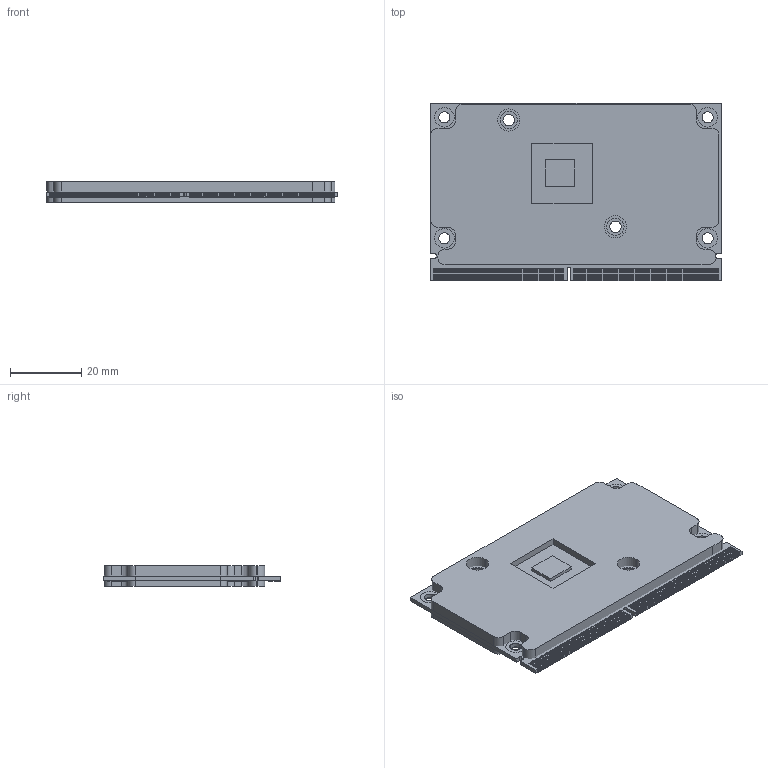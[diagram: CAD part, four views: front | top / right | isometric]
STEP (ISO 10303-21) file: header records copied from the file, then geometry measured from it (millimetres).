
FILE_DESCRIPTION(('CATIA V5 STEP Exchange'),'2;1');
FILE_NAME('\\server-nufotec\Projekt-Kunder\Embedded-Artists\Temp\2019-10-16\1065144-IMX8M-COM-BOARD-REV-A-ASSY-2019-10-16.stp','2019-10-16T05:52:25+00:00',('none'),('none'),'CATIA Version 5 Release 19 GA (IN-10)','CATIA V5 STEP AP214','none');
FILE_SCHEMA(('AUTOMOTIVE_DESIGN { 1 0 10303 214 1 1 1 1 }'));
Length unit declared in the file: millimetre
Products named in the file (1): 1065144-IMX8M-COM-BOARD-REV-A-ASSY-2019-10-16
Bounding box: 82 x 50 x 5.7 mm (x, y, z)
Surface area: 20222.4 mm2
Topology: 165 solids, 165 shells, 1141 faces, 2604 edges, 1795 vertices
Faces by surface type: plane 848, cylinder 293
Entity records: 29800 total; most frequent: ORIENTED_EDGE 5208, CARTESIAN_POINT 5173, DIRECTION 3712, EDGE_CURVE 2604, VECTOR 1837, LINE 1837, VERTEX_POINT 1795, AXIS2_PLACEMENT_3D 1309
